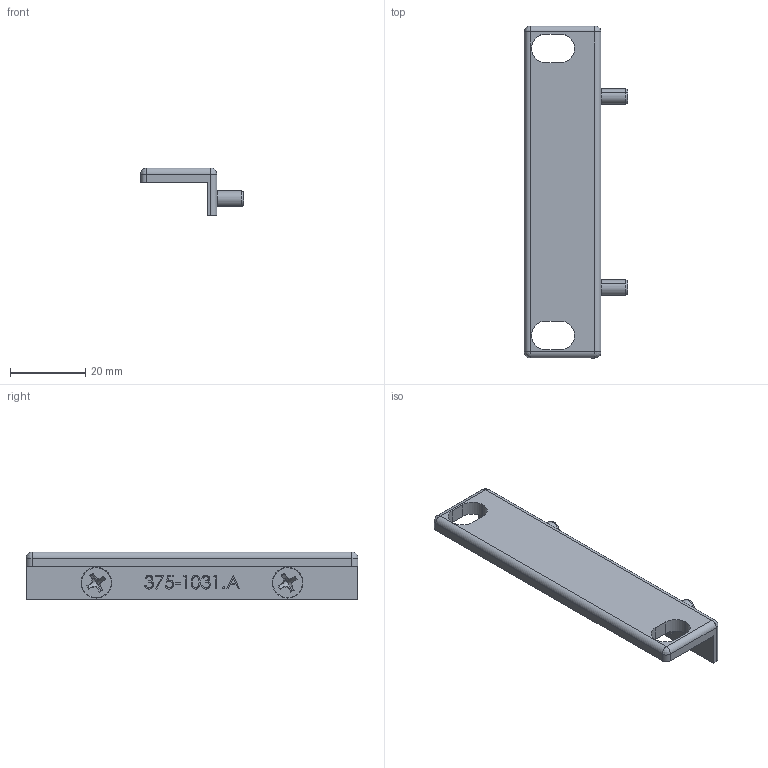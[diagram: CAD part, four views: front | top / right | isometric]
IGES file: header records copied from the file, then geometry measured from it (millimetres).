
Start section: SolidWorks IGES file using analytic representation for surfaces
Global section: file name: C:\Dropbox\Mechanical Engr\Development Projects (P)\Accessories\1401-RM-1\Customer Model Development\1401-RM-1, part 1 of 2b.IGS; native system: SolidWorks 2018; preprocessor: SolidWorks 2018; author: mhanson; date: 191118.102812; units: inch
Bounding box: 27.42 x 88.14 x 12.7 mm (x, y, z)
Volume: 8246.6 mm3; surface area: 6296.2 mm2
Topology: 3 solids, 3 shells, 208 faces, 546 edges, 352 vertices
Faces by surface type: plane 107, revolution 52, bspline 49
